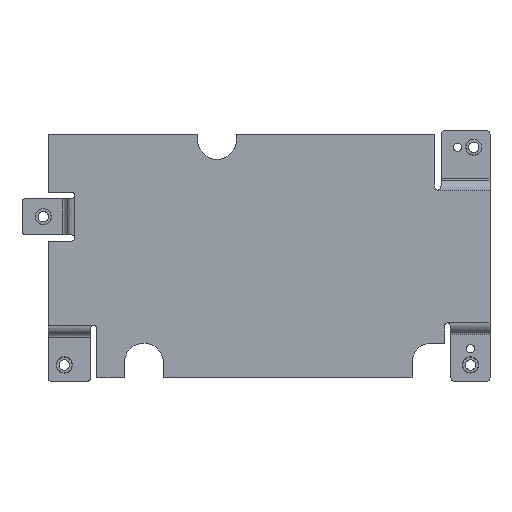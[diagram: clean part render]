
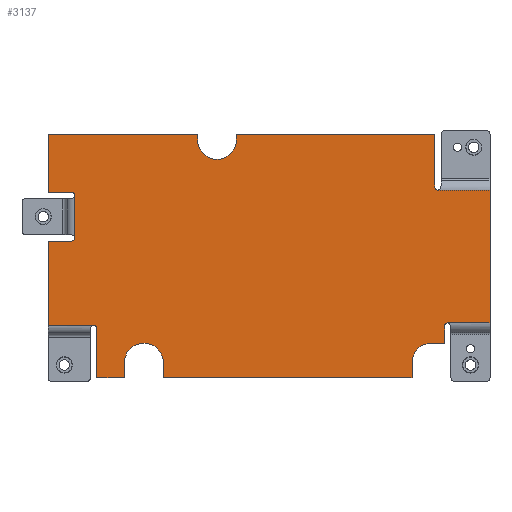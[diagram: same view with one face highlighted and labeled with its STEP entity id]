
A CAD part, front view. The second image highlights one B-rep face of the part: STEP entity #3137.
In plain terms, the highlighted planar face has unit normal (0, -1, 0).
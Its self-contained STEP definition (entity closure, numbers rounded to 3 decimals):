
#195=DIRECTION('',(0.,0.,-1.));
#196=VECTOR('',#195,13.);
#197=CARTESIAN_POINT('',(-59.757,-2.,18.64));
#198=LINE('',#197,#196);
#576=DIRECTION('',(1.,0.,0.));
#577=VECTOR('',#576,14.);
#578=CARTESIAN_POINT('',(-68.,-2.,-21.257));
#579=LINE('',#578,#577);
#591=CARTESIAN_POINT('',(55.,-2.,-21.557));
#592=DIRECTION('',(0.,1.,0.));
#593=DIRECTION('',(-1.,0.,0.));
#594=AXIS2_PLACEMENT_3D('',#591,#592,#593);
#596=DIRECTION('',(0.,0.,1.));
#597=VECTOR('',#596,0.243);
#598=CARTESIAN_POINT('',(54.,-2.,-21.8));
#599=LINE('',#598,#597);
#600=DIRECTION('',(0.,0.,-1.));
#601=VECTOR('',#600,5.);
#602=CARTESIAN_POINT('',(54.,-2.,-21.8));
#603=LINE('',#602,#601);
#604=DIRECTION('',(-1.,0.,0.));
#605=VECTOR('',#604,4.);
#606=CARTESIAN_POINT('',(54.,-2.,-26.8));
#607=LINE('',#606,#605);
#608=CARTESIAN_POINT('',(50.,-2.,-32.8));
#609=DIRECTION('',(0.,1.,0.));
#610=DIRECTION('',(-1.,0.,0.));
#611=AXIS2_PLACEMENT_3D('',#608,#609,#610);
#613=DIRECTION('',(0.,0.,1.));
#614=VECTOR('',#613,4.7);
#615=CARTESIAN_POINT('',(44.,-2.,-37.5));
#616=LINE('',#615,#614);
#617=DIRECTION('',(1.,0.,0.));
#618=VECTOR('',#617,76.5);
#619=CARTESIAN_POINT('',(-32.5,-2.,-37.5));
#620=LINE('',#619,#618);
#621=DIRECTION('',(0.,0.,1.));
#622=VECTOR('',#621,4.7);
#623=CARTESIAN_POINT('',(-32.5,-2.,-37.5));
#624=LINE('',#623,#622);
#625=CARTESIAN_POINT('',(-38.5,-2.,-32.8));
#626=DIRECTION('',(0.,1.,0.));
#627=DIRECTION('',(-1.,0.,0.));
#628=AXIS2_PLACEMENT_3D('',#625,#626,#627);
#630=DIRECTION('',(0.,0.,1.));
#631=VECTOR('',#630,4.7);
#632=CARTESIAN_POINT('',(-44.5,-2.,-37.5));
#633=LINE('',#632,#631);
#634=DIRECTION('',(1.,0.,0.));
#635=VECTOR('',#634,8.5);
#636=CARTESIAN_POINT('',(-53.,-2.,-37.5));
#637=LINE('',#636,#635);
#638=DIRECTION('',(0.,0.,1.));
#639=VECTOR('',#638,15.);
#640=CARTESIAN_POINT('',(-53.,-2.,-37.5));
#641=LINE('',#640,#639);
#642=DIRECTION('',(0.,0.,1.));
#643=VECTOR('',#642,0.243);
#644=CARTESIAN_POINT('',(-53.,-2.,-22.5));
#645=LINE('',#644,#643);
#646=CARTESIAN_POINT('',(-54.,-2.,-22.257));
#647=DIRECTION('',(0.,-1.,0.));
#648=DIRECTION('',(1.,0.,0.));
#649=AXIS2_PLACEMENT_3D('',#646,#647,#648);
#651=DIRECTION('',(0.,0.,-1.));
#652=VECTOR('',#651,25.897);
#653=CARTESIAN_POINT('',(-68.,-2.,4.64));
#654=LINE('',#653,#652);
#655=DIRECTION('',(1.,0.,0.));
#656=VECTOR('',#655,7.);
#657=CARTESIAN_POINT('',(-68.,-2.,4.64));
#658=LINE('',#657,#656);
#659=DIRECTION('',(1.,0.,0.));
#660=VECTOR('',#659,0.243);
#661=CARTESIAN_POINT('',(-61.,-2.,4.64));
#662=LINE('',#661,#660);
#663=CARTESIAN_POINT('',(-60.757,-2.,5.64));
#664=DIRECTION('',(0.,-1.,0.));
#665=DIRECTION('',(0.,0.,-1.));
#666=AXIS2_PLACEMENT_3D('',#663,#664,#665);
#668=CARTESIAN_POINT('',(-60.757,-2.,18.64));
#669=DIRECTION('',(0.,1.,0.));
#670=DIRECTION('',(0.,0.,1.));
#671=AXIS2_PLACEMENT_3D('',#668,#669,#670);
#673=DIRECTION('',(1.,0.,0.));
#674=VECTOR('',#673,0.243);
#675=CARTESIAN_POINT('',(-61.,-2.,19.64));
#676=LINE('',#675,#674);
#677=DIRECTION('',(1.,0.,0.));
#678=VECTOR('',#677,7.);
#679=CARTESIAN_POINT('',(-68.,-2.,19.64));
#680=LINE('',#679,#678);
#681=DIRECTION('',(0.,0.,-1.));
#682=VECTOR('',#681,17.86);
#683=CARTESIAN_POINT('',(-68.,-2.,37.5));
#684=LINE('',#683,#682);
#685=DIRECTION('',(-1.,0.,0.));
#686=VECTOR('',#685,46.);
#687=CARTESIAN_POINT('',(-22.,-2.,37.5));
#688=LINE('',#687,#686);
#689=DIRECTION('',(0.,0.,-1.));
#690=VECTOR('',#689,1.78);
#691=CARTESIAN_POINT('',(-22.,-2.,37.5));
#692=LINE('',#691,#690);
#693=CARTESIAN_POINT('',(-16.,-2.,35.72));
#694=DIRECTION('',(0.,1.,0.));
#695=DIRECTION('',(1.,0.,0.));
#696=AXIS2_PLACEMENT_3D('',#693,#694,#695);
#698=DIRECTION('',(0.,0.,-1.));
#699=VECTOR('',#698,1.78);
#700=CARTESIAN_POINT('',(-10.,-2.,37.5));
#701=LINE('',#700,#699);
#702=DIRECTION('',(-1.,0.,0.));
#703=VECTOR('',#702,61.);
#704=CARTESIAN_POINT('',(51.,-2.,37.5));
#705=LINE('',#704,#703);
#706=DIRECTION('',(0.,0.,-1.));
#707=VECTOR('',#706,15.93);
#708=CARTESIAN_POINT('',(51.,-2.,37.5));
#709=LINE('',#708,#707);
#710=DIRECTION('',(0.,0.,-1.));
#711=VECTOR('',#710,0.243);
#712=CARTESIAN_POINT('',(51.,-2.,21.57));
#713=LINE('',#712,#711);
#714=CARTESIAN_POINT('',(52.,-2.,21.327));
#715=DIRECTION('',(0.,-1.,0.));
#716=DIRECTION('',(-1.,0.,0.));
#717=AXIS2_PLACEMENT_3D('',#714,#715,#716);
#719=DIRECTION('',(0.,0.,1.));
#720=VECTOR('',#719,40.885);
#721=CARTESIAN_POINT('',(68.,-2.,-20.557));
#722=LINE('',#721,#720);
#734=DIRECTION('',(1.,0.,0.));
#735=VECTOR('',#734,13.);
#736=CARTESIAN_POINT('',(55.,-2.,-20.557));
#737=LINE('',#736,#735);
#812=DIRECTION('',(-1.,0.,0.));
#813=VECTOR('',#812,16.);
#814=CARTESIAN_POINT('',(68.,-2.,20.327));
#815=LINE('',#814,#813);
#1748=CARTESIAN_POINT('',(-68.,-2.,37.5));
#1750=VERTEX_POINT('',#1748);
#1771=CARTESIAN_POINT('',(-44.5,-2.,-37.5));
#1772=CARTESIAN_POINT('',(-44.5,-2.,-32.8));
#1773=VERTEX_POINT('',#1771);
#1774=VERTEX_POINT('',#1772);
#1775=CARTESIAN_POINT('',(-32.5,-2.,-37.5));
#1776=CARTESIAN_POINT('',(-32.5,-2.,-32.8));
#1777=VERTEX_POINT('',#1775);
#1778=VERTEX_POINT('',#1776);
#1779=CARTESIAN_POINT('',(44.,-2.,-37.5));
#1780=CARTESIAN_POINT('',(44.,-2.,-32.8));
#1781=VERTEX_POINT('',#1779);
#1782=VERTEX_POINT('',#1780);
#1783=CARTESIAN_POINT('',(-10.,-2.,35.72));
#1784=CARTESIAN_POINT('',(-22.,-2.,35.72));
#1785=VERTEX_POINT('',#1783);
#1786=VERTEX_POINT('',#1784);
#1787=CARTESIAN_POINT('',(-10.,-2.,37.5));
#1788=VERTEX_POINT('',#1787);
#1789=CARTESIAN_POINT('',(-22.,-2.,37.5));
#1790=VERTEX_POINT('',#1789);
#1917=CARTESIAN_POINT('',(-68.,-2.,19.64));
#1918=VERTEX_POINT('',#1917);
#1919=CARTESIAN_POINT('',(51.,-2.,37.5));
#1920=VERTEX_POINT('',#1919);
#1921=CARTESIAN_POINT('',(-53.,-2.,-37.5));
#1922=VERTEX_POINT('',#1921);
#1924=CARTESIAN_POINT('',(-68.,-2.,4.64));
#1926=VERTEX_POINT('',#1924);
#1929=CARTESIAN_POINT('',(50.,-2.,-26.8));
#1930=VERTEX_POINT('',#1929);
#1959=CARTESIAN_POINT('',(-61.,-2.,4.64));
#1960=CARTESIAN_POINT('',(-60.757,-2.,4.64));
#1961=VERTEX_POINT('',#1959);
#1962=VERTEX_POINT('',#1960);
#1965=CARTESIAN_POINT('',(-59.757,-2.,5.64));
#1966=VERTEX_POINT('',#1965);
#1973=CARTESIAN_POINT('',(-61.,-2.,19.64));
#1974=CARTESIAN_POINT('',(-60.757,-2.,19.64));
#1975=VERTEX_POINT('',#1973);
#1976=VERTEX_POINT('',#1974);
#1979=CARTESIAN_POINT('',(-59.757,-2.,18.64));
#1980=VERTEX_POINT('',#1979);
#1991=CARTESIAN_POINT('',(-68.,-2.,-21.257));
#1992=VERTEX_POINT('',#1991);
#2021=CARTESIAN_POINT('',(-53.,-2.,-22.5));
#2022=VERTEX_POINT('',#2021);
#2029=CARTESIAN_POINT('',(-53.,-2.,-22.257));
#2030=VERTEX_POINT('',#2029);
#2033=CARTESIAN_POINT('',(-54.,-2.,-21.257));
#2034=VERTEX_POINT('',#2033);
#2035=CARTESIAN_POINT('',(68.,-2.,20.327));
#2037=VERTEX_POINT('',#2035);
#2067=CARTESIAN_POINT('',(51.,-2.,21.57));
#2068=CARTESIAN_POINT('',(51.,-2.,21.327));
#2069=VERTEX_POINT('',#2067);
#2070=VERTEX_POINT('',#2068);
#2073=CARTESIAN_POINT('',(52.,-2.,20.327));
#2074=VERTEX_POINT('',#2073);
#2079=CARTESIAN_POINT('',(54.,-2.,-26.8));
#2080=VERTEX_POINT('',#2079);
#2081=CARTESIAN_POINT('',(68.,-2.,-20.557));
#2082=VERTEX_POINT('',#2081);
#2113=CARTESIAN_POINT('',(54.,-2.,-21.8));
#2114=CARTESIAN_POINT('',(54.,-2.,-21.557));
#2115=VERTEX_POINT('',#2113);
#2116=VERTEX_POINT('',#2114);
#2119=CARTESIAN_POINT('',(55.,-2.,-20.557));
#2120=VERTEX_POINT('',#2119);
#3077=CARTESIAN_POINT('',(0.,-2.,0.));
#3078=DIRECTION('',(0.,1.,0.));
#3079=DIRECTION('',(1.,0.,0.));
#3080=AXIS2_PLACEMENT_3D('',#3077,#3078,#3079);
#3081=PLANE('',#3080);
#3083=ORIENTED_EDGE('',*,*,#3082,.F.);
#3084=ORIENTED_EDGE('',*,*,#2797,.F.);
#3085=ORIENTED_EDGE('',*,*,#2810,.F.);
#3086=ORIENTED_EDGE('',*,*,#2825,.T.);
#3087=ORIENTED_EDGE('',*,*,#2839,.T.);
#3088=ORIENTED_EDGE('',*,*,#2853,.F.);
#3089=ORIENTED_EDGE('',*,*,#2866,.F.);
#3090=ORIENTED_EDGE('',*,*,#2879,.F.);
#3091=ORIENTED_EDGE('',*,*,#2894,.T.);
#3092=ORIENTED_EDGE('',*,*,#2908,.F.);
#3093=ORIENTED_EDGE('',*,*,#2922,.F.);
#3094=ORIENTED_EDGE('',*,*,#2935,.F.);
#3095=ORIENTED_EDGE('',*,*,#2950,.T.);
#3096=ORIENTED_EDGE('',*,*,#2964,.T.);
#3097=ORIENTED_EDGE('',*,*,#2977,.T.);
#3098=ORIENTED_EDGE('',*,*,#3066,.F.);
#3100=ORIENTED_EDGE('',*,*,#3099,.F.);
#3102=ORIENTED_EDGE('',*,*,#3101,.T.);
#3104=ORIENTED_EDGE('',*,*,#3103,.T.);
#3106=ORIENTED_EDGE('',*,*,#3105,.T.);
#3107=ORIENTED_EDGE('',*,*,#2506,.F.);
#3108=ORIENTED_EDGE('',*,*,#2572,.F.);
#3110=ORIENTED_EDGE('',*,*,#3109,.F.);
#3112=ORIENTED_EDGE('',*,*,#3111,.F.);
#3114=ORIENTED_EDGE('',*,*,#3113,.F.);
#3116=ORIENTED_EDGE('',*,*,#3115,.F.);
#3118=ORIENTED_EDGE('',*,*,#3117,.T.);
#3120=ORIENTED_EDGE('',*,*,#3119,.F.);
#3122=ORIENTED_EDGE('',*,*,#3121,.F.);
#3124=ORIENTED_EDGE('',*,*,#3123,.F.);
#3126=ORIENTED_EDGE('',*,*,#3125,.T.);
#3128=ORIENTED_EDGE('',*,*,#3127,.T.);
#3130=ORIENTED_EDGE('',*,*,#3129,.T.);
#3132=ORIENTED_EDGE('',*,*,#3131,.F.);
#3134=ORIENTED_EDGE('',*,*,#3133,.F.);
#3135=EDGE_LOOP('',(#3083,#3084,#3085,#3086,#3087,#3088,#3089,#3090,#3091,#3092,
#3093,#3094,#3095,#3096,#3097,#3098,#3100,#3102,#3104,#3106,#3107,#3108,#3110,
#3112,#3114,#3116,#3118,#3120,#3122,#3124,#3126,#3128,#3130,#3132,#3134));
#3136=FACE_OUTER_BOUND('',#3135,.F.);
#3137=ADVANCED_FACE('',(#3136),#3081,.F.);
#595=CIRCLE('',#594,1.);
#612=CIRCLE('',#611,6.);
#629=CIRCLE('',#628,6.);
#650=CIRCLE('',#649,1.);
#667=CIRCLE('',#666,1.);
#672=CIRCLE('',#671,1.);
#697=CIRCLE('',#696,6.);
#718=CIRCLE('',#717,1.);
#2506=EDGE_CURVE('',#1980,#1966,#198,.T.);
#2572=EDGE_CURVE('',#1976,#1980,#672,.T.);
#2797=EDGE_CURVE('',#2116,#2120,#595,.T.);
#2810=EDGE_CURVE('',#2115,#2116,#599,.T.);
#2825=EDGE_CURVE('',#2115,#2080,#603,.T.);
#2839=EDGE_CURVE('',#2080,#1930,#607,.T.);
#2853=EDGE_CURVE('',#1782,#1930,#612,.T.);
#2866=EDGE_CURVE('',#1781,#1782,#616,.T.);
#2879=EDGE_CURVE('',#1777,#1781,#620,.T.);
#2894=EDGE_CURVE('',#1777,#1778,#624,.T.);
#2908=EDGE_CURVE('',#1774,#1778,#629,.T.);
#2922=EDGE_CURVE('',#1773,#1774,#633,.T.);
#2935=EDGE_CURVE('',#1922,#1773,#637,.T.);
#2950=EDGE_CURVE('',#1922,#2022,#641,.T.);
#2964=EDGE_CURVE('',#2022,#2030,#645,.T.);
#2977=EDGE_CURVE('',#2030,#2034,#650,.T.);
#3066=EDGE_CURVE('',#1992,#2034,#579,.T.);
#3082=EDGE_CURVE('',#2120,#2082,#737,.T.);
#3099=EDGE_CURVE('',#1926,#1992,#654,.T.);
#3101=EDGE_CURVE('',#1926,#1961,#658,.T.);
#3103=EDGE_CURVE('',#1961,#1962,#662,.T.);
#3105=EDGE_CURVE('',#1962,#1966,#667,.T.);
#3109=EDGE_CURVE('',#1975,#1976,#676,.T.);
#3111=EDGE_CURVE('',#1918,#1975,#680,.T.);
#3113=EDGE_CURVE('',#1750,#1918,#684,.T.);
#3115=EDGE_CURVE('',#1790,#1750,#688,.T.);
#3117=EDGE_CURVE('',#1790,#1786,#692,.T.);
#3119=EDGE_CURVE('',#1785,#1786,#697,.T.);
#3121=EDGE_CURVE('',#1788,#1785,#701,.T.);
#3123=EDGE_CURVE('',#1920,#1788,#705,.T.);
#3125=EDGE_CURVE('',#1920,#2069,#709,.T.);
#3127=EDGE_CURVE('',#2069,#2070,#713,.T.);
#3129=EDGE_CURVE('',#2070,#2074,#718,.T.);
#3131=EDGE_CURVE('',#2037,#2074,#815,.T.);
#3133=EDGE_CURVE('',#2082,#2037,#722,.T.);
